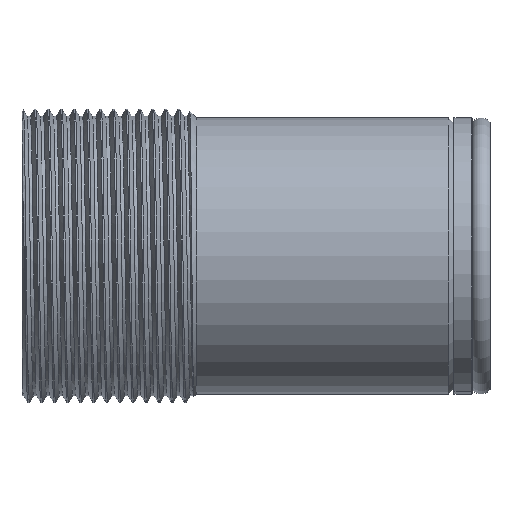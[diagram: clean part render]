
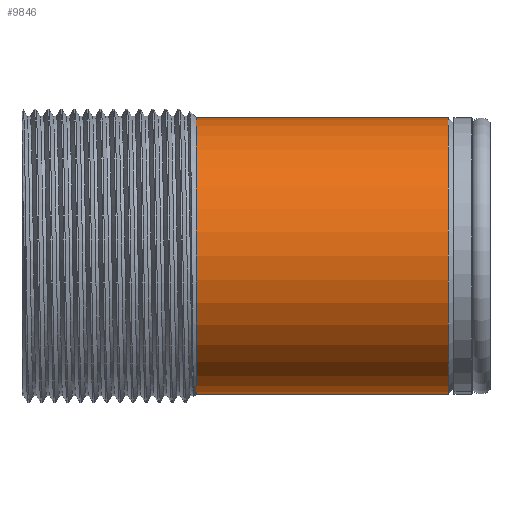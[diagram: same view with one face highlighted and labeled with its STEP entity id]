
A CAD part, front view. The second image highlights one B-rep face of the part: STEP entity #9846.
In plain terms, the highlighted cylindrical face has radius 22.377 mm (diameter 44.755 mm), a partial arc.
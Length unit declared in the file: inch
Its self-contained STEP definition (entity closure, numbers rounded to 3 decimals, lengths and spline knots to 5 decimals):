
#27 = DIRECTION ( 'NONE',  ( -1., 0., 0. ) ) ;
#129 = CIRCLE ( 'NONE', #8412, 0.881 ) ;
#322 = EDGE_CURVE ( 'NONE', #1200, #4358, #3218, .T. ) ;
#599 = DIRECTION ( 'NONE',  ( -1., 0., 0. ) ) ;
#818 = VERTEX_POINT ( 'NONE', #3815 ) ;
#1200 = VERTEX_POINT ( 'NONE', #6913 ) ;
#1560 = FACE_OUTER_BOUND ( 'NONE', #6868, .T. ) ;
#1795 = VERTEX_POINT ( 'NONE', #3985 ) ;
#1965 = CARTESIAN_POINT ( 'NONE',  ( 26.34283, 34.91139, 52.38642 ) ) ;
#2075 = AXIS2_PLACEMENT_3D ( 'NONE', #7184, #599, #3898 ) ;
#2298 = EDGE_CURVE ( 'NONE', #818, #4358, #5862, .T. ) ;
#2608 = CARTESIAN_POINT ( 'NONE',  ( 27.95133, 34.91139, 51.50542 ) ) ;
#2958 = VECTOR ( 'NONE', #4964, 39.37008 ) ;
#3218 = CIRCLE ( 'NONE', #9583, 0.881 ) ;
#3586 = ORIENTED_EDGE ( 'NONE', *, *, #9469, .T. ) ;
#3815 = CARTESIAN_POINT ( 'NONE',  ( 27.95133, 34.91139, 52.38642 ) ) ;
#3898 = DIRECTION ( 'NONE',  ( 0., 0., 1. ) ) ;
#3985 = CARTESIAN_POINT ( 'NONE',  ( 27.95133, 34.91139, 50.62442 ) ) ;
#4177 = DIRECTION ( 'NONE',  ( 0., 0., 1. ) ) ;
#4358 = VERTEX_POINT ( 'NONE', #1965 ) ;
#4694 = DIRECTION ( 'NONE',  ( 0., 0., 1. ) ) ;
#4964 = DIRECTION ( 'NONE',  ( -1., 0., 0. ) ) ;
#4981 = DIRECTION ( 'NONE',  ( -1., 0., 0. ) ) ;
#5061 = ORIENTED_EDGE ( 'NONE', *, *, #2298, .T. ) ;
#5375 = ORIENTED_EDGE ( 'NONE', *, *, #5811, .F. ) ;
#5629 = CYLINDRICAL_SURFACE ( 'NONE', #2075, 0.881 ) ;
#5753 = CARTESIAN_POINT ( 'NONE',  ( 25.23133, 34.91139, 52.38642 ) ) ;
#5811 = EDGE_CURVE ( 'NONE', #1795, #1200, #7499, .T. ) ;
#5862 = LINE ( 'NONE', #5753, #5955 ) ;
#5955 = VECTOR ( 'NONE', #27, 39.37008 ) ;
#6468 = CARTESIAN_POINT ( 'NONE',  ( 26.34283, 34.91139, 51.50542 ) ) ;
#6531 = CARTESIAN_POINT ( 'NONE',  ( 25.23133, 34.91139, 50.62442 ) ) ;
#6868 = EDGE_LOOP ( 'NONE', ( #5375, #3586, #5061, #7844 ) ) ;
#6913 = CARTESIAN_POINT ( 'NONE',  ( 26.34283, 34.91139, 50.62442 ) ) ;
#7184 = CARTESIAN_POINT ( 'NONE',  ( 25.23133, 34.91139, 51.50542 ) ) ;
#7499 = LINE ( 'NONE', #6531, #2958 ) ;
#7844 = ORIENTED_EDGE ( 'NONE', *, *, #322, .F. ) ;
#8412 = AXIS2_PLACEMENT_3D ( 'NONE', #2608, #4981, #4177 ) ;
#9469 = EDGE_CURVE ( 'NONE', #1795, #818, #129, .T. ) ;
#9583 = AXIS2_PLACEMENT_3D ( 'NONE', #6468, #9742, #4694 ) ;
#9742 = DIRECTION ( 'NONE',  ( -1., 0., 0. ) ) ;
#9846 = ADVANCED_FACE ( 'NONE', ( #1560 ), #5629, .T. ) ;
